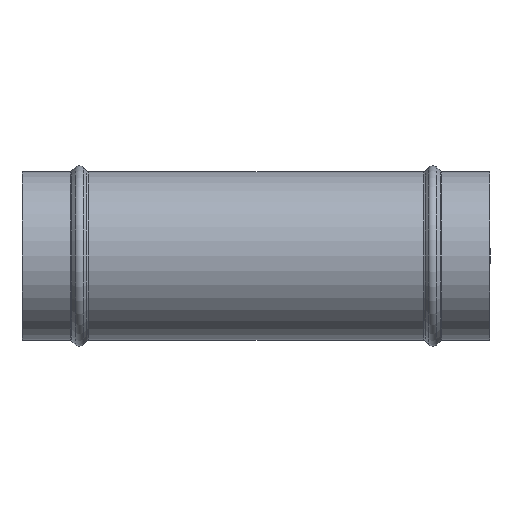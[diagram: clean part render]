
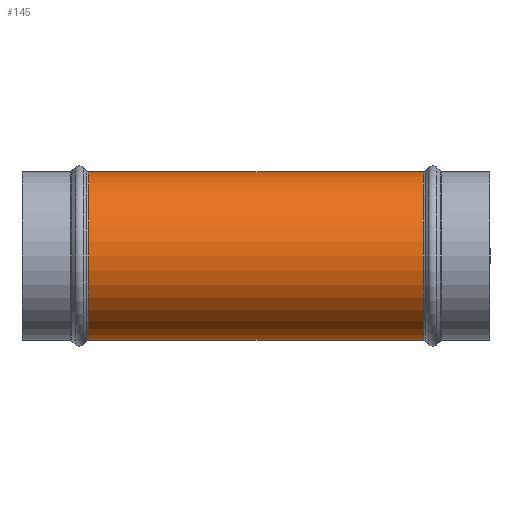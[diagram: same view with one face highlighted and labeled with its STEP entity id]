
A CAD part, front view. The second image highlights one B-rep face of the part: STEP entity #145.
In plain terms, the highlighted cylindrical face has radius 50.8 mm (diameter 101.6 mm), a full revolution.
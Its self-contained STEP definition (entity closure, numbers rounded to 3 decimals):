
#145=ADVANCED_FACE('',(#255,#256,#257),#177,.T.);
#177=CYLINDRICAL_SURFACE('',#611,50.8);
#197=CIRCLE('',#609,50.8);
#198=CIRCLE('',#610,50.8);
#255=FACE_BOUND('',#343,.T.);
#256=FACE_BOUND('',#344,.T.);
#257=FACE_BOUND('',#345,.T.);
#343=EDGE_LOOP('',(#431));
#344=EDGE_LOOP('',(#432));
#345=EDGE_LOOP('',(#433));
#431=ORIENTED_EDGE('',*,*,#549,.F.);
#432=ORIENTED_EDGE('',*,*,#550,.T.);
#433=ORIENTED_EDGE('',*,*,#533,.F.);
#489=VERTEX_POINT('',#894);
#505=VERTEX_POINT('',#996);
#506=VERTEX_POINT('',#998);
#533=EDGE_CURVE('',#489,#489,#577,.T.);
#549=EDGE_CURVE('',#505,#505,#197,.T.);
#550=EDGE_CURVE('',#506,#506,#198,.T.);
#577=B_SPLINE_CURVE_WITH_KNOTS('',3,(#838,#839,#840,#841,#842,#843,#844,
#845,#846,#847,#848,#849,#850,#851,#852,#853,#854,#855,#856,#857,#858,#859,
#860,#861,#862,#863,#864,#865,#866,#867,#868,#869,#870,#871,#872,#873,#874,
#875,#876,#877,#878,#879,#880,#881,#882,#883,#884,#885,#886,#887,#888,#889,
#890,#891,#892,#893),.UNSPECIFIED.,.T.,.F.,(2,2,2,2,2,2,2,2,2,2,2,2,2,2,
2,2,2,2,2,2,2,2,2,2,2,2,2,2,2,2),(-0.031,0.,0.031,0.063,0.094,0.125,
0.156,0.188,0.219,0.25,0.313,0.375,0.437,0.469,
0.5,0.531,0.562,0.594,
0.625,0.687,0.75,0.781,
0.812,0.844,0.875,0.906,0.938,0.969,1.,1.031),
 .UNSPECIFIED.);
#609=AXIS2_PLACEMENT_3D('',#995,#725,#726);
#610=AXIS2_PLACEMENT_3D('',#997,#727,#728);
#611=AXIS2_PLACEMENT_3D('',#999,#729,#730);
#725=DIRECTION('',(-1.,0.,0.));
#726=DIRECTION('',(0.,-1.,0.));
#727=DIRECTION('',(-1.,0.,0.));
#728=DIRECTION('',(0.,-1.,0.));
#729=DIRECTION('',(-1.,0.,0.));
#730=DIRECTION('',(0.,-1.,0.));
#838=CARTESIAN_POINT('',(-70.696,50.8,3.651));
#839=CARTESIAN_POINT('',(-70.696,50.8,-3.651));
#840=CARTESIAN_POINT('',(-70.961,50.411,-7.221));
#841=CARTESIAN_POINT('',(-72.027,48.904,-14.206));
#842=CARTESIAN_POINT('',(-72.837,47.774,-17.61));
#843=CARTESIAN_POINT('',(-74.991,44.969,-23.88));
#844=CARTESIAN_POINT('',(-76.367,43.251,-26.836));
#845=CARTESIAN_POINT('',(-79.729,39.556,-32.034));
#846=CARTESIAN_POINT('',(-81.715,37.565,-34.305));
#847=CARTESIAN_POINT('',(-86.604,33.699,-38.11));
#848=CARTESIAN_POINT('',(-89.452,31.903,-39.568));
#849=CARTESIAN_POINT('',(-95.912,29.231,-41.581));
#850=CARTESIAN_POINT('',(-99.454,28.403,-42.12));
#851=CARTESIAN_POINT('',(-106.657,27.699,-42.586));
#852=CARTESIAN_POINT('',(-110.266,27.788,-42.528));
#853=CARTESIAN_POINT('',(-117.493,28.459,-42.082));
#854=CARTESIAN_POINT('',(-121.036,29.035,-41.694));
#855=CARTESIAN_POINT('',(-131.487,31.116,-40.191));
#856=CARTESIAN_POINT('',(-138.255,32.972,-38.743));
#857=CARTESIAN_POINT('',(-151.55,36.957,-34.962));
#858=CARTESIAN_POINT('',(-158.068,39.109,-32.624));
#859=CARTESIAN_POINT('',(-170.458,43.357,-26.721));
#860=CARTESIAN_POINT('',(-176.473,45.51,-23.149));
#861=CARTESIAN_POINT('',(-184.128,48.296,-15.959));
#862=CARTESIAN_POINT('',(-186.413,49.137,-13.275));
#863=CARTESIAN_POINT('',(-189.846,50.406,-7.065));
#864=CARTESIAN_POINT('',(-190.938,50.813,-3.435));
#865=CARTESIAN_POINT('',(-190.868,50.787,3.798));
#866=CARTESIAN_POINT('',(-189.731,50.363,7.369));
#867=CARTESIAN_POINT('',(-186.174,49.049,13.6));
#868=CARTESIAN_POINT('',(-183.851,48.195,16.261));
#869=CARTESIAN_POINT('',(-178.694,46.319,21.016));
#870=CARTESIAN_POINT('',(-175.908,45.316,23.056));
#871=CARTESIAN_POINT('',(-170.081,43.248,26.734));
#872=CARTESIAN_POINT('',(-167.021,42.177,28.373));
#873=CARTESIAN_POINT('',(-157.671,38.977,32.782));
#874=CARTESIAN_POINT('',(-151.231,36.856,35.067));
#875=CARTESIAN_POINT('',(-138.004,32.903,38.8));
#876=CARTESIAN_POINT('',(-131.188,31.039,40.251));
#877=CARTESIAN_POINT('',(-120.669,28.971,41.738));
#878=CARTESIAN_POINT('',(-117.132,28.411,42.114));
#879=CARTESIAN_POINT('',(-109.955,27.776,42.536));
#880=CARTESIAN_POINT('',(-106.316,27.708,42.581));
#881=CARTESIAN_POINT('',(-99.181,28.457,42.084));
#882=CARTESIAN_POINT('',(-95.642,29.316,41.521));
#883=CARTESIAN_POINT('',(-89.277,32.003,39.488));
#884=CARTESIAN_POINT('',(-86.438,33.815,38.007));
#885=CARTESIAN_POINT('',(-81.621,37.656,34.205));
#886=CARTESIAN_POINT('',(-79.636,39.652,31.915));
#887=CARTESIAN_POINT('',(-76.303,43.328,26.711));
#888=CARTESIAN_POINT('',(-74.944,45.028,23.767));
#889=CARTESIAN_POINT('',(-72.809,47.811,17.506));
#890=CARTESIAN_POINT('',(-72.008,48.931,14.104));
#891=CARTESIAN_POINT('',(-70.959,50.415,7.178));
#892=CARTESIAN_POINT('',(-70.696,50.8,3.651));
#893=CARTESIAN_POINT('',(-70.696,50.8,-3.651));
#894=CARTESIAN_POINT('',(-70.696,50.8,0.));
#995=CARTESIAN_POINT('',(-241.929,0.,0.));
#996=CARTESIAN_POINT('',(-241.929,-50.8,0.));
#997=CARTESIAN_POINT('',(-40.071,0.,0.));
#998=CARTESIAN_POINT('',(-40.071,-50.8,0.));
#999=CARTESIAN_POINT('',(0.,0.,0.));
